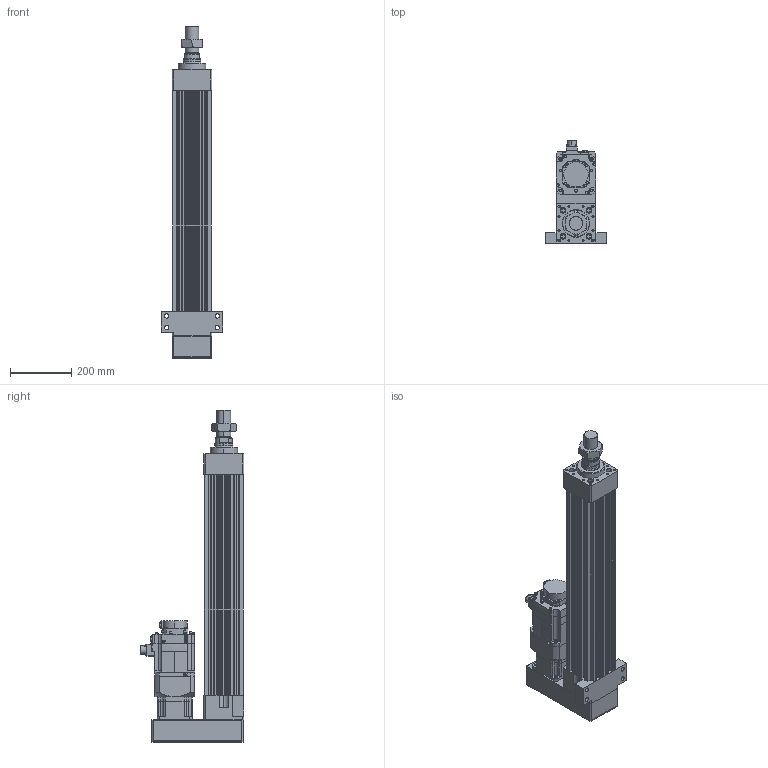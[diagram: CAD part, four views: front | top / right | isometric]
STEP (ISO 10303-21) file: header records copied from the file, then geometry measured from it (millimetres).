
FILE_DESCRIPTION (( 'STEP AP203' ), '1' );
FILE_NAME ('HES130NS(FS)(HS)-P500-W015G00-M-FFC.STEP', '2026-06-10T06:12:37', ( 'tms' ), ( '' ), 'SwSTEP 2.0', 'SolidWorks 2013', '' );
FILE_SCHEMA (( 'CONFIG_CONTROL_DESIGN' ));
Length unit declared in the file: millimetre
Products named in the file (8): HES130-P-G120; AB1152; HG-SR152B; M45X1.5P; HES130-M-ROD-500; AB1151; HES130NS(FS)(HS)-P500-W015G00-M-FFC; HES130-FFC-500
Assembly tree (7 placements, depth 2):
  HES130NS(FS)(HS)-P500-W015G00-M-FFC
    HES130-FFC-500
    HES130-M-ROD-500
    M45X1.5P
    HES130-P-G120
    AB1151
    AB1152
    HG-SR152B
Bounding box: 200 x 337.49 x 1082 mm (x, y, z)
Volume: 12334442.7 mm3; surface area: 1561351 mm2
Topology: 5 solids, 12 shells, 1244 faces, 3150 edges, 2027 vertices
Faces by surface type: cylinder 584, plane 540, cone 106, bspline 10, torus 4
Entity records: 39199 total; most frequent: CARTESIAN_POINT 7512, DIRECTION 6807, ORIENTED_EDGE 6208, EDGE_CURVE 3114, AXIS2_PLACEMENT_3D 2543, VERTEX_POINT 2027, LINE 1721, VECTOR 1721
